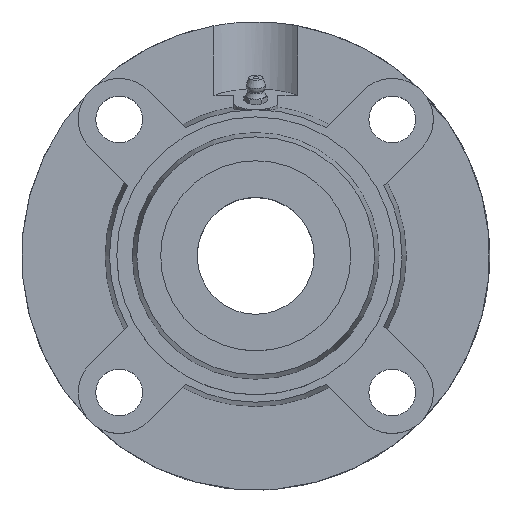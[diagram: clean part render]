
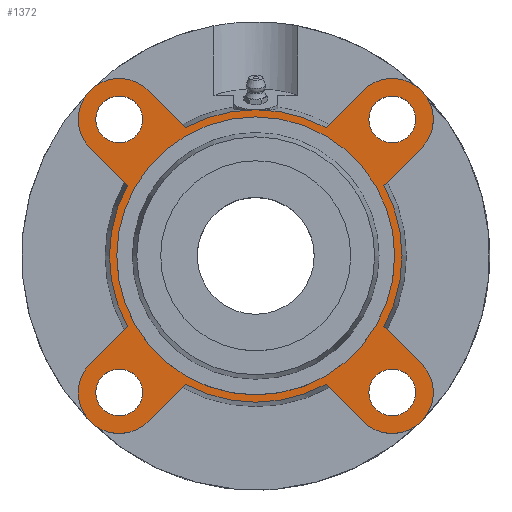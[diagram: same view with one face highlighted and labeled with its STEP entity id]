
A CAD part, top view. The second image highlights one B-rep face of the part: STEP entity #1372.
In plain terms, the highlighted planar face has unit normal (0, 0, 1).
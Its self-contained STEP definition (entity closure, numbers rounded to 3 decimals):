
#112=CARTESIAN_POINT('',(0.0,47.5,13.5));
#113=VERTEX_POINT('',#112);
#114=CARTESIAN_POINT('',(0.0,0.,13.5));
#115=DIRECTION('',(0.0,0.0,-1.0));
#116=DIRECTION('',(0.0,1.0,0.0));
#117=AXIS2_PLACEMENT_3D('',#114,#115,#116);
#118=CIRCLE('',#117,47.5);
#119=EDGE_CURVE('',#113,#113,#118,.T.);
#209=CARTESIAN_POINT('',(-38.669,-46.669,13.5));
#210=VERTEX_POINT('',#209);
#211=CARTESIAN_POINT('',(-46.669,-46.669,13.5));
#212=DIRECTION('',(0.0,0.0,-1.0));
#213=DIRECTION('',(1.0,0.0,0.0));
#214=AXIS2_PLACEMENT_3D('',#211,#212,#213);
#215=CIRCLE('',#214,8.0);
#216=EDGE_CURVE('',#210,#210,#215,.T.);
#237=CARTESIAN_POINT('',(-38.669,46.669,13.5));
#238=VERTEX_POINT('',#237);
#239=CARTESIAN_POINT('',(-46.669,46.669,13.5));
#240=DIRECTION('',(0.0,0.0,-1.0));
#241=DIRECTION('',(1.0,0.0,0.0));
#242=AXIS2_PLACEMENT_3D('',#239,#240,#241);
#243=CIRCLE('',#242,8.0);
#244=EDGE_CURVE('',#238,#238,#243,.T.);
#265=CARTESIAN_POINT('',(54.669,46.669,13.5));
#266=VERTEX_POINT('',#265);
#267=CARTESIAN_POINT('',(46.669,46.669,13.5));
#268=DIRECTION('',(0.0,0.0,-1.0));
#269=DIRECTION('',(1.0,0.0,0.0));
#270=AXIS2_PLACEMENT_3D('',#267,#268,#269);
#271=CIRCLE('',#270,8.0);
#272=EDGE_CURVE('',#266,#266,#271,.T.);
#293=CARTESIAN_POINT('',(54.669,-46.669,13.5));
#294=VERTEX_POINT('',#293);
#295=CARTESIAN_POINT('',(46.669,-46.669,13.5));
#296=DIRECTION('',(0.0,0.0,-1.0));
#297=DIRECTION('',(1.0,0.0,0.0));
#298=AXIS2_PLACEMENT_3D('',#295,#296,#297);
#299=CIRCLE('',#298,8.0);
#300=EDGE_CURVE('',#294,#294,#299,.T.);
#670=CARTESIAN_POINT('',(0.,50.,13.5));
#671=VERTEX_POINT('',#670);
#828=CARTESIAN_POINT('',(-24.042,43.841,13.5));
#829=VERTEX_POINT('',#828);
#843=CARTESIAN_POINT('',(0.0,0.,13.5));
#844=DIRECTION('',(0.0,0.0,1.0));
#845=DIRECTION('',(0.0,-1.0,0.0));
#846=AXIS2_PLACEMENT_3D('',#843,#844,#845);
#847=CIRCLE('',#846,50.);
#848=EDGE_CURVE('',#671,#829,#847,.T.);
#858=CARTESIAN_POINT('',(-24.042,-43.841,13.5));
#859=VERTEX_POINT('',#858);
#875=CARTESIAN_POINT('',(-36.77,-56.569,13.5));
#876=VERTEX_POINT('',#875);
#877=CARTESIAN_POINT('',(-24.042,-43.841,13.5));
#878=DIRECTION('',(-0.707,-0.707,0.));
#879=VECTOR('',#878,18.);
#880=LINE('',#877,#879);
#881=EDGE_CURVE('',#859,#876,#880,.T.);
#905=CARTESIAN_POINT('',(-43.841,24.042,13.5));
#906=VERTEX_POINT('',#905);
#922=CARTESIAN_POINT('',(-56.569,36.77,13.5));
#923=VERTEX_POINT('',#922);
#924=CARTESIAN_POINT('',(-43.841,24.042,13.5));
#925=DIRECTION('',(-0.707,0.707,0.));
#926=VECTOR('',#925,18.);
#927=LINE('',#924,#926);
#928=EDGE_CURVE('',#906,#923,#927,.T.);
#952=CARTESIAN_POINT('',(43.841,-24.042,13.5));
#953=VERTEX_POINT('',#952);
#969=CARTESIAN_POINT('',(56.569,-36.77,13.5));
#970=VERTEX_POINT('',#969);
#971=CARTESIAN_POINT('',(43.841,-24.042,13.5));
#972=DIRECTION('',(0.707,-0.707,0.));
#973=VECTOR('',#972,18.);
#974=LINE('',#971,#973);
#975=EDGE_CURVE('',#953,#970,#974,.T.);
#999=CARTESIAN_POINT('',(24.042,43.841,13.5));
#1000=VERTEX_POINT('',#999);
#1014=CARTESIAN_POINT('',(36.77,56.569,13.5));
#1015=VERTEX_POINT('',#1014);
#1016=CARTESIAN_POINT('',(24.042,43.841,13.5));
#1017=DIRECTION('',(0.707,0.707,0.));
#1018=VECTOR('',#1017,18.);
#1019=LINE('',#1016,#1018);
#1020=EDGE_CURVE('',#1000,#1015,#1019,.T.);
#1039=CARTESIAN_POINT('',(43.841,24.042,13.5));
#1040=VERTEX_POINT('',#1039);
#1062=CARTESIAN_POINT('',(56.569,36.77,13.5));
#1063=VERTEX_POINT('',#1062);
#1070=CARTESIAN_POINT('',(56.569,36.77,13.5));
#1071=DIRECTION('',(-0.707,-0.707,0.));
#1072=VECTOR('',#1071,18.);
#1073=LINE('',#1070,#1072);
#1074=EDGE_CURVE('',#1063,#1040,#1073,.T.);
#1084=CARTESIAN_POINT('',(-56.569,-36.77,13.5));
#1085=VERTEX_POINT('',#1084);
#1086=CARTESIAN_POINT('',(-46.669,-46.669,13.5));
#1087=DIRECTION('',(0.0,0.0,-1.0));
#1088=DIRECTION('',(-0.707,0.707,0.0));
#1089=AXIS2_PLACEMENT_3D('',#1086,#1087,#1088);
#1090=CIRCLE('',#1089,14.0);
#1091=EDGE_CURVE('',#876,#1085,#1090,.T.);
#1126=CARTESIAN_POINT('',(-43.841,-24.042,13.5));
#1127=VERTEX_POINT('',#1126);
#1148=CARTESIAN_POINT('',(-56.569,-36.77,13.5));
#1149=DIRECTION('',(0.707,0.707,0.));
#1150=VECTOR('',#1149,18.0);
#1151=LINE('',#1148,#1150);
#1152=EDGE_CURVE('',#1085,#1127,#1151,.T.);
#1162=CARTESIAN_POINT('',(-36.77,56.569,13.5));
#1163=VERTEX_POINT('',#1162);
#1164=CARTESIAN_POINT('',(-46.669,46.669,13.5));
#1165=DIRECTION('',(0.0,0.0,-1.0));
#1166=DIRECTION('',(0.707,0.707,0.0));
#1167=AXIS2_PLACEMENT_3D('',#1164,#1165,#1166);
#1168=CIRCLE('',#1167,14.0);
#1169=EDGE_CURVE('',#923,#1163,#1168,.T.);
#1197=CARTESIAN_POINT('',(-36.77,56.569,13.5));
#1198=DIRECTION('',(0.707,-0.707,0.));
#1199=VECTOR('',#1198,18.);
#1200=LINE('',#1197,#1199);
#1201=EDGE_CURVE('',#1163,#829,#1200,.T.);
#1211=CARTESIAN_POINT('',(36.77,-56.569,13.5));
#1212=VERTEX_POINT('',#1211);
#1213=CARTESIAN_POINT('',(46.669,-46.669,13.5));
#1214=DIRECTION('',(0.0,0.0,-1.0));
#1215=DIRECTION('',(-0.707,-0.707,0.0));
#1216=AXIS2_PLACEMENT_3D('',#1213,#1214,#1215);
#1217=CIRCLE('',#1216,14.0);
#1218=EDGE_CURVE('',#970,#1212,#1217,.T.);
#1253=CARTESIAN_POINT('',(24.042,-43.841,13.5));
#1254=VERTEX_POINT('',#1253);
#1275=CARTESIAN_POINT('',(36.77,-56.569,13.5));
#1276=DIRECTION('',(-0.707,0.707,0.));
#1277=VECTOR('',#1276,18.);
#1278=LINE('',#1275,#1277);
#1279=EDGE_CURVE('',#1212,#1254,#1278,.T.);
#1289=CARTESIAN_POINT('',(46.669,46.669,13.5));
#1290=DIRECTION('',(0.0,0.0,-1.0));
#1291=DIRECTION('',(0.707,-0.707,0.0));
#1292=AXIS2_PLACEMENT_3D('',#1289,#1290,#1291);
#1293=CIRCLE('',#1292,14.0);
#1294=EDGE_CURVE('',#1015,#1063,#1293,.T.);
#1309=CARTESIAN_POINT('',(0.0,-25.0,13.5));
#1310=DIRECTION('',(0.0,0.0,1.0));
#1311=DIRECTION('',(1.0,0.0,0.0));
#1312=AXIS2_PLACEMENT_3D('',#1309,#1310,#1311);
#1313=PLANE('',#1312);
#1314=CARTESIAN_POINT('',(0.0,0.,13.5));
#1315=DIRECTION('',(0.0,0.0,1.0));
#1316=DIRECTION('',(0.0,-1.0,0.0));
#1317=AXIS2_PLACEMENT_3D('',#1314,#1315,#1316);
#1318=CIRCLE('',#1317,50.);
#1319=EDGE_CURVE('',#859,#1254,#1318,.T.);
#1320=ORIENTED_EDGE('',*,*,#1319,.T.);
#1321=ORIENTED_EDGE('',*,*,#1279,.F.);
#1322=ORIENTED_EDGE('',*,*,#1218,.F.);
#1323=ORIENTED_EDGE('',*,*,#975,.F.);
#1324=CARTESIAN_POINT('',(0.0,0.,13.5));
#1325=DIRECTION('',(0.0,0.0,1.0));
#1326=DIRECTION('',(0.0,-1.0,0.0));
#1327=AXIS2_PLACEMENT_3D('',#1324,#1325,#1326);
#1328=CIRCLE('',#1327,50.);
#1329=EDGE_CURVE('',#953,#1040,#1328,.T.);
#1330=ORIENTED_EDGE('',*,*,#1329,.T.);
#1331=ORIENTED_EDGE('',*,*,#1074,.F.);
#1332=ORIENTED_EDGE('',*,*,#1294,.F.);
#1333=ORIENTED_EDGE('',*,*,#1020,.F.);
#1334=CARTESIAN_POINT('',(0.0,0.,13.5));
#1335=DIRECTION('',(0.0,0.0,1.0));
#1336=DIRECTION('',(0.0,-1.0,0.0));
#1337=AXIS2_PLACEMENT_3D('',#1334,#1335,#1336);
#1338=CIRCLE('',#1337,50.);
#1339=EDGE_CURVE('',#1000,#671,#1338,.T.);
#1340=ORIENTED_EDGE('',*,*,#1339,.T.);
#1341=ORIENTED_EDGE('',*,*,#848,.T.);
#1342=ORIENTED_EDGE('',*,*,#1201,.F.);
#1343=ORIENTED_EDGE('',*,*,#1169,.F.);
#1344=ORIENTED_EDGE('',*,*,#928,.F.);
#1345=CARTESIAN_POINT('',(0.0,0.,13.5));
#1346=DIRECTION('',(0.0,0.0,1.0));
#1347=DIRECTION('',(0.0,-1.0,0.0));
#1348=AXIS2_PLACEMENT_3D('',#1345,#1346,#1347);
#1349=CIRCLE('',#1348,50.);
#1350=EDGE_CURVE('',#906,#1127,#1349,.T.);
#1351=ORIENTED_EDGE('',*,*,#1350,.T.);
#1352=ORIENTED_EDGE('',*,*,#1152,.F.);
#1353=ORIENTED_EDGE('',*,*,#1091,.F.);
#1354=ORIENTED_EDGE('',*,*,#881,.F.);
#1355=EDGE_LOOP('',(#1320,#1321,#1322,#1323,#1330,#1331,#1332,#1333,#1340,#1341,#1342,#1343,#1344,#1351,#1352,#1353,#1354));
#1356=FACE_OUTER_BOUND('',#1355,.T.);
#1357=ORIENTED_EDGE('',*,*,#119,.T.);
#1358=EDGE_LOOP('',(#1357));
#1359=FACE_BOUND('',#1358,.T.);
#1360=ORIENTED_EDGE('',*,*,#216,.T.);
#1361=EDGE_LOOP('',(#1360));
#1362=FACE_BOUND('',#1361,.T.);
#1363=ORIENTED_EDGE('',*,*,#244,.T.);
#1364=EDGE_LOOP('',(#1363));
#1365=FACE_BOUND('',#1364,.T.);
#1366=ORIENTED_EDGE('',*,*,#272,.T.);
#1367=EDGE_LOOP('',(#1366));
#1368=FACE_BOUND('',#1367,.T.);
#1369=ORIENTED_EDGE('',*,*,#300,.T.);
#1370=EDGE_LOOP('',(#1369));
#1371=FACE_BOUND('',#1370,.T.);
#1372=ADVANCED_FACE('',(#1356,#1359,#1362,#1365,#1368,#1371),#1313,.T.);
